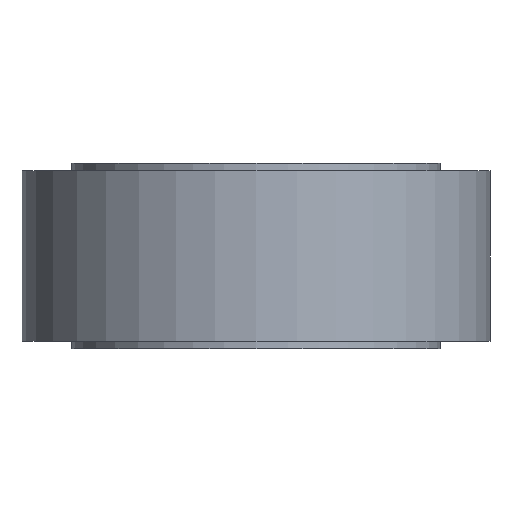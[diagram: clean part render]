
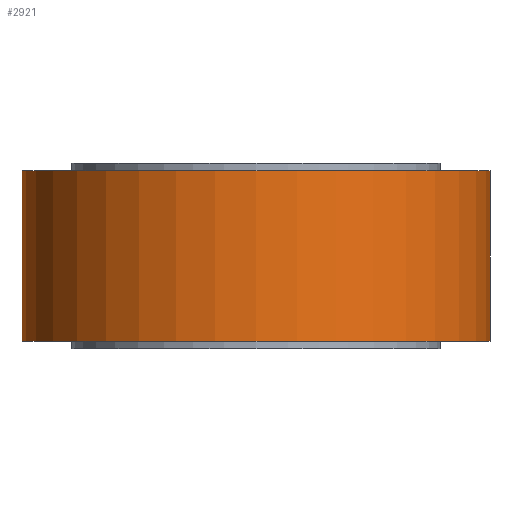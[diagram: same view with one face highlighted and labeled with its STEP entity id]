
A CAD part, front view. The second image highlights one B-rep face of the part: STEP entity #2921.
In plain terms, the highlighted cylindrical face has radius 31.5 mm (diameter 63 mm), a full revolution.
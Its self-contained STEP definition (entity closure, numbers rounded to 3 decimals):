
#12=B_SPLINE_CURVE_WITH_KNOTS('',3,(#5055,#5056,#5057,#5058,#5059,#5060,
#5061,#5062,#5063,#5064,#5065,#5066,#5067,#5068,#5069,#5070,#5071,#5072,
#5073),.UNSPECIFIED.,.F.,.F.,(4,2,2,2,3,2,2,2,4),(2.833,3.069,
3.305,3.542,3.778,4.014,4.25,
4.486,4.722),.UNSPECIFIED.);
#13=B_SPLINE_CURVE_WITH_KNOTS('',3,(#5074,#5075,#5076,#5077,#5078,#5079,
#5080,#5081,#5082,#5083,#5084,#5085,#5086,#5087,#5088,#5089,#5090,#5091),
 .UNSPECIFIED.,.F.,.F.,(4,2,2,2,2,2,2,2,4),(0.944,1.181,
1.417,1.653,1.889,2.125,2.361,
2.597,2.833),.UNSPECIFIED.);
#134=FACE_BOUND('',#517,.T.);
#319=FACE_OUTER_BOUND('',#516,.T.);
#516=EDGE_LOOP('',(#2364,#2365,#2366,#2367,#2368,#2369));
#517=EDGE_LOOP('',(#2370,#2371));
#686=LINE('',#5049,#824);
#824=VECTOR('',#4066,31.5);
#1041=CIRCLE('',#3286,31.5);
#1042=CIRCLE('',#3287,31.5);
#1043=CIRCLE('',#3289,31.5);
#1044=CIRCLE('',#3290,31.5);
#1321=VERTEX_POINT('',#5043);
#1322=VERTEX_POINT('',#5044);
#1323=VERTEX_POINT('',#5048);
#1324=VERTEX_POINT('',#5050);
#1325=VERTEX_POINT('',#5053);
#1326=VERTEX_POINT('',#5054);
#1696=EDGE_CURVE('',#1321,#1322,#1041,.T.);
#1697=EDGE_CURVE('',#1322,#1321,#1042,.T.);
#1698=EDGE_CURVE('',#1322,#1323,#686,.T.);
#1699=EDGE_CURVE('',#1323,#1324,#1043,.T.);
#1700=EDGE_CURVE('',#1324,#1323,#1044,.T.);
#1701=EDGE_CURVE('',#1325,#1326,#12,.T.);
#1702=EDGE_CURVE('',#1326,#1325,#13,.T.);
#2364=ORIENTED_EDGE('',*,*,#1696,.F.);
#2365=ORIENTED_EDGE('',*,*,#1697,.F.);
#2366=ORIENTED_EDGE('',*,*,#1698,.T.);
#2367=ORIENTED_EDGE('',*,*,#1699,.T.);
#2368=ORIENTED_EDGE('',*,*,#1700,.T.);
#2369=ORIENTED_EDGE('',*,*,#1698,.F.);
#2370=ORIENTED_EDGE('',*,*,#1701,.T.);
#2371=ORIENTED_EDGE('',*,*,#1702,.T.);
#2794=CYLINDRICAL_SURFACE('',#3288,31.5);
#2921=ADVANCED_FACE('',(#319,#134),#2794,.T.);
#3286=AXIS2_PLACEMENT_3D('',#5045,#4060,#4061);
#3287=AXIS2_PLACEMENT_3D('',#5046,#4062,#4063);
#3288=AXIS2_PLACEMENT_3D('',#5047,#4064,#4065);
#3289=AXIS2_PLACEMENT_3D('',#5051,#4067,#4068);
#3290=AXIS2_PLACEMENT_3D('',#5052,#4069,#4070);
#4060=DIRECTION('center_axis',(0.,0.,1.));
#4061=DIRECTION('ref_axis',(1.,0.,0.));
#4062=DIRECTION('center_axis',(0.,0.,1.));
#4063=DIRECTION('ref_axis',(1.,0.,0.));
#4064=DIRECTION('center_axis',(0.,0.,1.));
#4065=DIRECTION('ref_axis',(1.,0.,0.));
#4066=DIRECTION('',(0.,0.,-1.));
#4067=DIRECTION('center_axis',(0.,0.,1.));
#4068=DIRECTION('ref_axis',(1.,0.,0.));
#4069=DIRECTION('center_axis',(0.,0.,1.));
#4070=DIRECTION('ref_axis',(1.,0.,0.));
#5043=CARTESIAN_POINT('',(31.5,0.,24.));
#5044=CARTESIAN_POINT('',(-31.5,0.,24.));
#5045=CARTESIAN_POINT('Origin',(0.,0.,24.));
#5046=CARTESIAN_POINT('Origin',(0.,0.,24.));
#5047=CARTESIAN_POINT('Origin',(0.,0.,12.5));
#5048=CARTESIAN_POINT('',(-31.5,0.,1.));
#5049=CARTESIAN_POINT('',(-31.5,0.,12.5));
#5050=CARTESIAN_POINT('',(31.5,0.,1.));
#5051=CARTESIAN_POINT('Origin',(0.,0.,1.));
#5052=CARTESIAN_POINT('Origin',(0.,0.,1.));
#5053=CARTESIAN_POINT('',(0.,31.5,6.25));
#5054=CARTESIAN_POINT('',(0.,31.5,18.75));
#5055=CARTESIAN_POINT('Ctrl Pts',(0.,31.5,6.25));
#5056=CARTESIAN_POINT('Ctrl Pts',(0.787,31.5,6.25));
#5057=CARTESIAN_POINT('Ctrl Pts',(1.625,31.468,6.408));
#5058=CARTESIAN_POINT('Ctrl Pts',(3.164,31.35,7.046));
#5059=CARTESIAN_POINT('Ctrl Pts',(3.866,31.267,7.527));
#5060=CARTESIAN_POINT('Ctrl Pts',(4.973,31.11,8.634));
#5061=CARTESIAN_POINT('Ctrl Pts',(5.454,31.026,9.336));
#5062=CARTESIAN_POINT('Ctrl Pts',(6.092,30.907,10.875));
#5063=CARTESIAN_POINT('Ctrl Pts',(6.25,30.874,11.713));
#5064=CARTESIAN_POINT('Ctrl Pts',(6.25,30.874,12.5));
#5065=CARTESIAN_POINT('Ctrl Pts',(6.25,30.874,13.287));
#5066=CARTESIAN_POINT('Ctrl Pts',(6.092,30.907,14.125));
#5067=CARTESIAN_POINT('Ctrl Pts',(5.454,31.026,15.664));
#5068=CARTESIAN_POINT('Ctrl Pts',(4.973,31.11,16.366));
#5069=CARTESIAN_POINT('Ctrl Pts',(3.866,31.267,17.473));
#5070=CARTESIAN_POINT('Ctrl Pts',(3.164,31.35,17.954));
#5071=CARTESIAN_POINT('Ctrl Pts',(1.625,31.468,18.592));
#5072=CARTESIAN_POINT('Ctrl Pts',(0.787,31.5,18.75));
#5073=CARTESIAN_POINT('Ctrl Pts',(0.,31.5,18.75));
#5074=CARTESIAN_POINT('Ctrl Pts',(0.,31.5,18.75));
#5075=CARTESIAN_POINT('Ctrl Pts',(-0.787,31.5,18.75));
#5076=CARTESIAN_POINT('Ctrl Pts',(-1.625,31.468,18.592));
#5077=CARTESIAN_POINT('Ctrl Pts',(-3.164,31.35,17.954));
#5078=CARTESIAN_POINT('Ctrl Pts',(-3.866,31.267,17.473));
#5079=CARTESIAN_POINT('Ctrl Pts',(-4.973,31.11,16.366));
#5080=CARTESIAN_POINT('Ctrl Pts',(-5.454,31.026,15.664));
#5081=CARTESIAN_POINT('Ctrl Pts',(-6.092,30.907,14.125));
#5082=CARTESIAN_POINT('Ctrl Pts',(-6.25,30.874,13.287));
#5083=CARTESIAN_POINT('Ctrl Pts',(-6.25,30.874,11.713));
#5084=CARTESIAN_POINT('Ctrl Pts',(-6.092,30.907,10.875));
#5085=CARTESIAN_POINT('Ctrl Pts',(-5.454,31.026,9.336));
#5086=CARTESIAN_POINT('Ctrl Pts',(-4.973,31.11,8.634));
#5087=CARTESIAN_POINT('Ctrl Pts',(-3.866,31.267,7.527));
#5088=CARTESIAN_POINT('Ctrl Pts',(-3.164,31.35,7.046));
#5089=CARTESIAN_POINT('Ctrl Pts',(-1.625,31.468,6.408));
#5090=CARTESIAN_POINT('Ctrl Pts',(-0.787,31.5,6.25));
#5091=CARTESIAN_POINT('Ctrl Pts',(0.,31.5,6.25));
